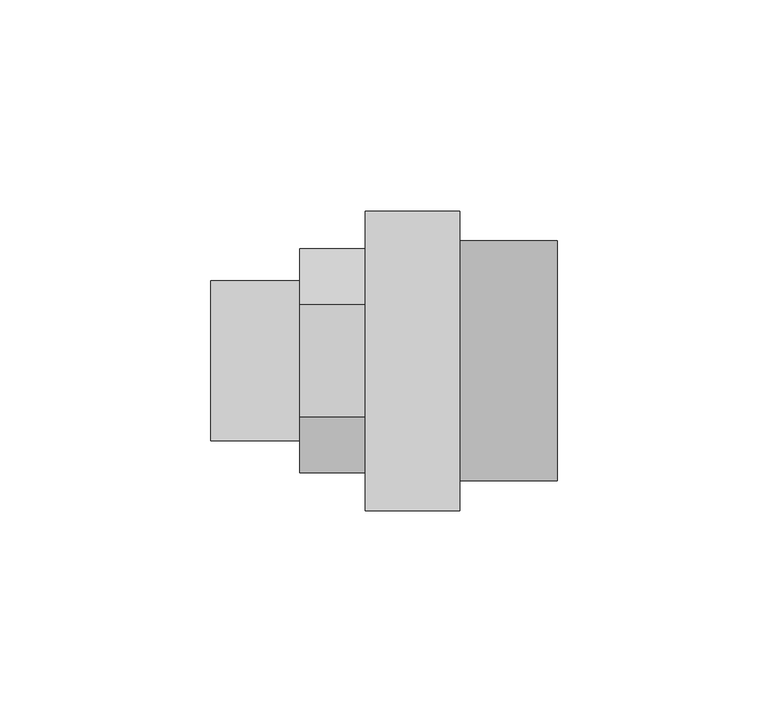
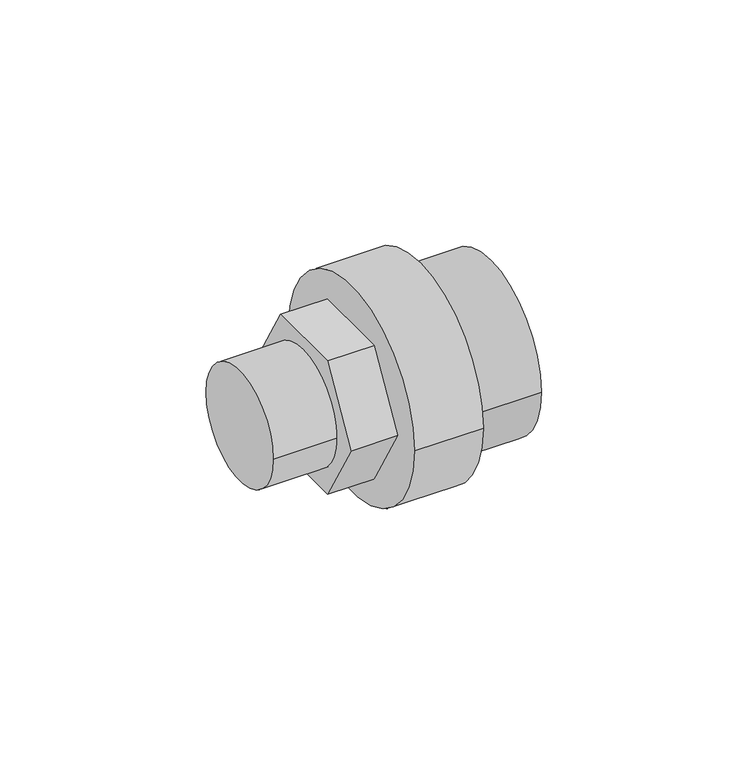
"""IFC4 building model written with IfcOpenShell, lengths in millimetres: pipe fitting geometry, 01011279 : Junções para piscinas F/M."""

from ifc_helpers import new_model, si_unit, point, frame, origin, origin_2d, place, context, project, spatial, polyline, circle_curve, trimmed, segment, composite_curve, outline, extrude, source, transform, mapped, element, save


def pipe_fitting_ac10da1b(model_context):
    return source(origin(), model_context, "Body", "SweptSolid", [
        extrude(outline(composite_curve([segment(trimmed(circle_curve(origin_2d(), 35.5), [point((35.5, 0.0))], [point((-35.5, 0.0))], False, "CARTESIAN"), True, "CONTINUOUS"), segment(trimmed(circle_curve(origin_2d(), 35.5), [point((-35.5, 0.0))], [point((35.5, 0.0))], False, "CARTESIAN"), True, "CONTINUOUS")], self_intersect=False)), frame((-15.5, 0.0, 0.0), z_axis=(1.0, 0.0, 0.0), x_axis=(0.0, 1.0, 0.0)), (0.0, 0.0, 1.0), 22.5),
        extrude(outline(polyline([(-13.2790562, 23.0), (13.2790562, 23.0), (26.5581124, 0.0), (13.2790562, -23.0), (-13.2790562, -23.0), (-26.5581124, 0.0), (-13.2790562, 23.0)])), frame((-31.0, 0.0, 0.0), z_axis=(1.0, 0.0, 0.0), x_axis=(0.0, 1.0, 0.0)), (0.0, 0.0, 1.0), 15.5),
        extrude(outline(composite_curve([segment(trimmed(circle_curve(origin_2d(), 19.0), [point((19.0, 0.0))], [point((-19.0, 0.0))], False, "CARTESIAN"), True, "CONTINUOUS"), segment(trimmed(circle_curve(origin_2d(), 19.0), [point((-19.0, 0.0))], [point((19.0, 0.0))], False, "CARTESIAN"), True, "CONTINUOUS")], self_intersect=False)), frame((-52.0, 0.0, 0.0), z_axis=(1.0, 0.0, 0.0), x_axis=(0.0, 1.0, 0.0)), (0.0, 0.0, 1.0), 21.0),
        extrude(outline(composite_curve([segment(trimmed(circle_curve(origin_2d(), 28.4), [point((-28.4, 0.0))], [point((28.4, 0.0))], False, "CARTESIAN"), True, "CONTINUOUS"), segment(trimmed(circle_curve(origin_2d(), 28.4), [point((28.4, 0.0))], [point((-28.4, 0.0))], False, "CARTESIAN"), True, "CONTINUOUS")], self_intersect=False)), frame((7.0, 0.0, 0.0), z_axis=(1.0, 0.0, 0.0), x_axis=(0.0, 1.0, 0.0)), (0.0, 0.0, 1.0), 23.0),
    ])


if __name__ == "__main__":
    model = new_model("IFC4")
    model_context = context("Model", 3, world=origin())
    ifc_project = project(units=[si_unit("LENGTHUNIT", "METRE", prefix="MILLI")], contexts=[model_context])
    site = spatial("IfcSite", under=ifc_project)
    building = spatial("IfcBuilding", under=site)
    placement = place(None, origin())
    pipe_fitting_shape = pipe_fitting_ac10da1b(model_context)
    element("IfcPipeFitting", 1, ObjectType="01011279 : Junções para piscinas F/M", at=placement, inside=building, context=model_context, shape_type="MappedRepresentation", body=[
        mapped(pipe_fitting_shape, transform((0.0, 0.0, 0.0), x_axis=(1.0, 0.0, 0.0), y_axis=(0.0, 1.0, 0.0), z_axis=(0.0, 0.0, 1.0))),
    ])
    save(model, "model.ifc")
